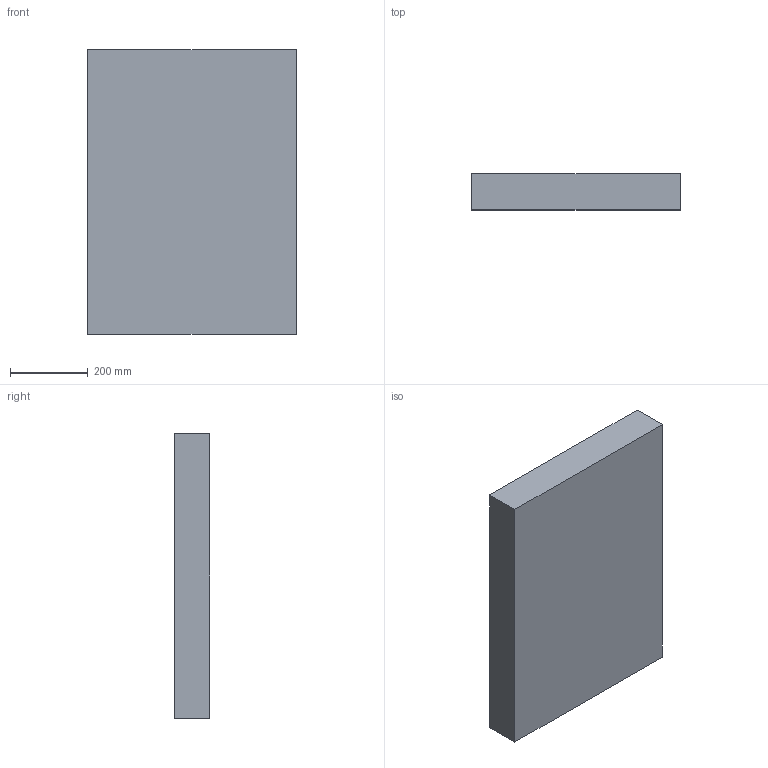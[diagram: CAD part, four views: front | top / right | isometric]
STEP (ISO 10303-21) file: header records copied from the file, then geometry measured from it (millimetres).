
FILE_DESCRIPTION((''),'2;1');
FILE_NAME('AIRFLOWBLANK_ORV3_2OU_SHORT','2021-12-07T23:07:01',('dmshapir'),('FACEBOOK, INC'),'CREO PARAMETRIC BY PTC INC, 2020454','CREO PARAMETRIC BY PTC INC, 2020454','');
FILE_SCHEMA(('AUTOMOTIVE_DESIGN { 1 0 10303 214 1 1 1 1 }'));
Length unit declared in the file: millimetre
Products named in the file (1): AIRFLOWBLANK_ORV3_2OU_SHORT
Bounding box: 534 x 91.15 x 730.6 mm (x, y, z)
Volume: 35561297.5 mm3; surface area: 1010817.4 mm2
Topology: 1 solids, 1 shells, 6 faces, 517 edges, 513 vertices
Faces by surface type: plane 6
Entity records: 5461 total; most frequent: CARTESIAN_POINT 922, PRESENTATION_STYLE_ASSIGNMENT 522, STYLED_ITEM 522, CURVE_STYLE 521, COMPOSITE_CURVE_SEGMENT 505, DIRECTION 435, VECTOR 392, LINE 392
